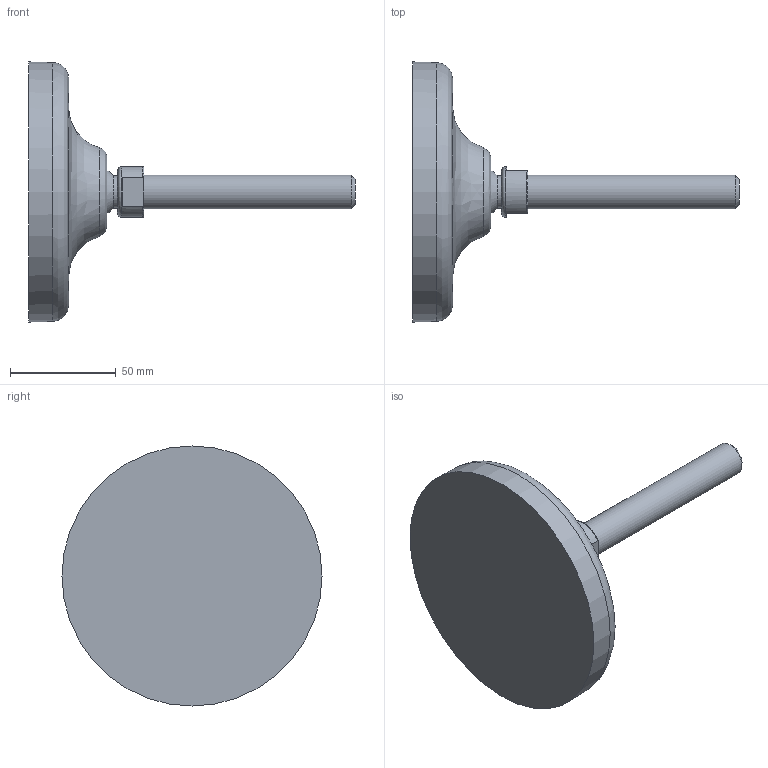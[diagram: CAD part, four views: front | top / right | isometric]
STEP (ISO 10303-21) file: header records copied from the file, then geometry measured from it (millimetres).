
FILE_DESCRIPTION(('STEP AP203'),'2;1');
FILE_NAME('10158.stp','2014-04-01T10:31:57',(''),(''),'2008.1.107','THINKDESIGN','');
FILE_SCHEMA(('CONFIG_CONTROL_DESIGN'));
Length unit declared in the file: millimetre
Bounding box: 154.53 x 123 x 123 mm (x, y, z)
Volume: 281215 mm3; surface area: 38877.9 mm2
Topology: 4 solids, 4 shells, 25 faces, 57 edges, 41 vertices
Faces by surface type: plane 13, bspline 9, cylinder 3
Full cylindrical faces by diameter (mm): 15.5 x1, 16 x1, 24 x1
Entity records: 1488 total; most frequent: CARTESIAN_POINT 821, DIRECTION 125, ORIENTED_EDGE 114, EDGE_CURVE 57, AXIS2_PLACEMENT_3D 56, VERTEX_POINT 41, CIRCLE 40, EDGE_LOOP 26
